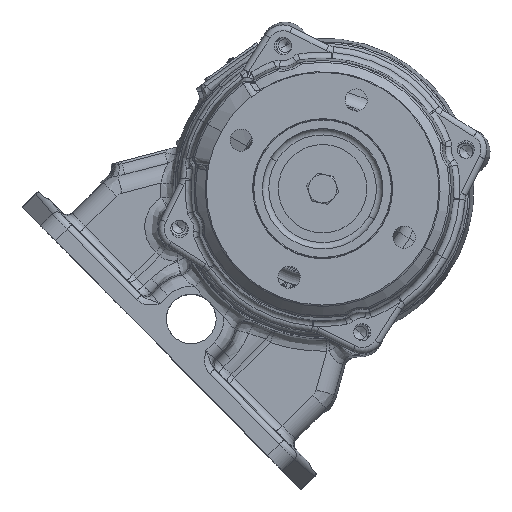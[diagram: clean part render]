
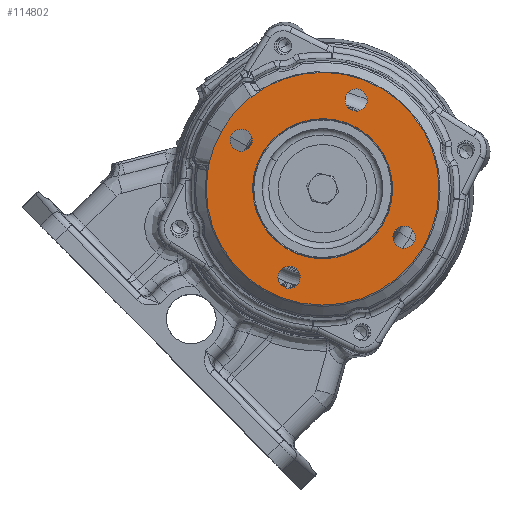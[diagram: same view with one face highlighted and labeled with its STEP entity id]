
A CAD part, top view. The second image highlights one B-rep face of the part: STEP entity #114802.
In plain terms, the highlighted planar face has unit normal (0, 0, 1) as drawn and (0, -1, 0) by its records, which use the part's own axes.
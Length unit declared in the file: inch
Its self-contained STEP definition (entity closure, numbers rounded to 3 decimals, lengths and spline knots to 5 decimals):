
#970 = EDGE_LOOP ( 'NONE', ( #81920, #97185 ) ) ;
#1090 = CARTESIAN_POINT ( 'NONE',  ( 1.84651, 0., 0.32559 ) ) ;
#1412 = ORIENTED_EDGE ( 'NONE', *, *, #39196, .T. ) ;
#4248 = FACE_BOUND ( 'NONE', #70435, .T. ) ;
#4326 = VERTEX_POINT ( 'NONE', #41296 ) ;
#6287 = ORIENTED_EDGE ( 'NONE', *, *, #117518, .T. ) ;
#7482 = VERTEX_POINT ( 'NONE', #81000 ) ;
#11139 = AXIS2_PLACEMENT_3D ( 'NONE', #33689, #32488, #90199 ) ;
#11695 = EDGE_LOOP ( 'NONE', ( #1412, #116113 ) ) ;
#13982 = DIRECTION ( 'NONE',  ( 0., -1., 0. ) ) ;
#14313 = CIRCLE ( 'NONE', #103548, 0.22 ) ;
#15189 = FACE_BOUND ( 'NONE', #970, .T. ) ;
#17357 = CARTESIAN_POINT ( 'NONE',  ( 0., 0., -1.655 ) ) ;
#17573 = DIRECTION ( 'NONE',  ( 0., 0., 1. ) ) ;
#17930 = EDGE_LOOP ( 'NONE', ( #44624, #6287 ) ) ;
#18703 = CIRCLE ( 'NONE', #94299, 0.22 ) ;
#18760 = AXIS2_PLACEMENT_3D ( 'NONE', #28790, #102887, #85861 ) ;
#19371 = DIRECTION ( 'NONE',  ( 0., 0., -1. ) ) ;
#21772 = CARTESIAN_POINT ( 'NONE',  ( 0., 0., 0. ) ) ;
#25554 = CIRCLE ( 'NONE', #62429, 0.22 ) ;
#28762 = VERTEX_POINT ( 'NONE', #61476 ) ;
#28790 = CARTESIAN_POINT ( 'NONE',  ( 0., 0., -1.875 ) ) ;
#29743 = CARTESIAN_POINT ( 'NONE',  ( 0., 0., 1.875 ) ) ;
#30164 = VERTEX_POINT ( 'NONE', #45231 ) ;
#30439 = CIRCLE ( 'NONE', #98339, 1.3855 ) ;
#31564 = DIRECTION ( 'NONE',  ( 0., 1., 0. ) ) ;
#32488 = DIRECTION ( 'NONE',  ( 0., 1., 0. ) ) ;
#33087 = CARTESIAN_POINT ( 'NONE',  ( -1.84651, 0., -0.10559 ) ) ;
#33326 = DIRECTION ( 'NONE',  ( 0., 1., 0. ) ) ;
#33689 = CARTESIAN_POINT ( 'NONE',  ( 0., 0., 0. ) ) ;
#33771 = EDGE_CURVE ( 'NONE', #87618, #49492, #105992, .T. ) ;
#34019 = PLANE ( 'NONE',  #118837 ) ;
#34163 = AXIS2_PLACEMENT_3D ( 'NONE', #1090, #55798, #76383 ) ;
#36197 = DIRECTION ( 'NONE',  ( 0., 0., 1. ) ) ;
#37609 = EDGE_CURVE ( 'NONE', #109572, #59962, #69368, .T. ) ;
#38985 = AXIS2_PLACEMENT_3D ( 'NONE', #21772, #78218, #115260 ) ;
#39196 = EDGE_CURVE ( 'NONE', #118911, #74740, #118910, .T. ) ;
#41296 = CARTESIAN_POINT ( 'NONE',  ( 0., 0., 1.655 ) ) ;
#41318 = FACE_BOUND ( 'NONE', #17930, .T. ) ;
#41481 = DIRECTION ( 'NONE',  ( 0., 0., -1. ) ) ;
#42432 = ORIENTED_EDGE ( 'NONE', *, *, #100621, .F. ) ;
#42523 = FACE_BOUND ( 'NONE', #11695, .T. ) ;
#43518 = CARTESIAN_POINT ( 'NONE',  ( 0., 0., -1.875 ) ) ;
#44624 = ORIENTED_EDGE ( 'NONE', *, *, #108282, .T. ) ;
#44792 = DIRECTION ( 'NONE',  ( 0., 0., 1. ) ) ;
#45231 = CARTESIAN_POINT ( 'NONE',  ( 1.84651, 0., 0.54559 ) ) ;
#45758 = EDGE_CURVE ( 'NONE', #74740, #118911, #30439, .T. ) ;
#49276 = CARTESIAN_POINT ( 'NONE',  ( 0., 0., 2.3025 ) ) ;
#49492 = VERTEX_POINT ( 'NONE', #17357 ) ;
#52192 = ORIENTED_EDGE ( 'NONE', *, *, #37609, .F. ) ;
#52940 = CARTESIAN_POINT ( 'NONE',  ( 0., 0., -2.095 ) ) ;
#55236 = AXIS2_PLACEMENT_3D ( 'NONE', #29743, #103838, #87599 ) ;
#55328 = VERTEX_POINT ( 'NONE', #33087 ) ;
#55798 = DIRECTION ( 'NONE',  ( 0., 1., 0. ) ) ;
#56313 = CARTESIAN_POINT ( 'NONE',  ( 1.84651, 0., 0.10559 ) ) ;
#57588 = ORIENTED_EDGE ( 'NONE', *, *, #112676, .T. ) ;
#57597 = CARTESIAN_POINT ( 'NONE',  ( 0., 0., 0. ) ) ;
#58434 = CARTESIAN_POINT ( 'NONE',  ( -1.84651, 0., -0.32559 ) ) ;
#58598 = EDGE_LOOP ( 'NONE', ( #88792, #58896 ) ) ;
#58831 = AXIS2_PLACEMENT_3D ( 'NONE', #97381, #87079, #41481 ) ;
#58896 = ORIENTED_EDGE ( 'NONE', *, *, #89908, .T. ) ;
#59479 = EDGE_CURVE ( 'NONE', #55328, #28762, #14313, .T. ) ;
#59962 = VERTEX_POINT ( 'NONE', #74399 ) ;
#60119 = AXIS2_PLACEMENT_3D ( 'NONE', #43518, #71493, #36197 ) ;
#61300 = DIRECTION ( 'NONE',  ( 0., 0., 1. ) ) ;
#61476 = CARTESIAN_POINT ( 'NONE',  ( -1.84651, 0., -0.54559 ) ) ;
#62429 = AXIS2_PLACEMENT_3D ( 'NONE', #62527, #63136, #17573 ) ;
#62527 = CARTESIAN_POINT ( 'NONE',  ( 1.84651, 0., 0.32559 ) ) ;
#62927 = CARTESIAN_POINT ( 'NONE',  ( 0., 0., 1.3855 ) ) ;
#63136 = DIRECTION ( 'NONE',  ( 0., 1., 0. ) ) ;
#63154 = CARTESIAN_POINT ( 'NONE',  ( 0., 0., -1.3855 ) ) ;
#65462 = DIRECTION ( 'NONE',  ( 0., 1., 0. ) ) ;
#67159 = CIRCLE ( 'NONE', #34163, 0.22 ) ;
#68667 = DIRECTION ( 'NONE',  ( 0., 0., 1. ) ) ;
#69368 = CIRCLE ( 'NONE', #11139, 2.3025 ) ;
#69891 = FACE_OUTER_BOUND ( 'NONE', #113568, .T. ) ;
#70435 = EDGE_LOOP ( 'NONE', ( #85212, #57588 ) ) ;
#71266 = VERTEX_POINT ( 'NONE', #56313 ) ;
#71493 = DIRECTION ( 'NONE',  ( 0., 1., 0. ) ) ;
#71963 = CIRCLE ( 'NONE', #38985, 2.3025 ) ;
#72160 = CARTESIAN_POINT ( 'NONE',  ( -1.84651, 0., -0.32559 ) ) ;
#74399 = CARTESIAN_POINT ( 'NONE',  ( 0., 0., -2.3025 ) ) ;
#74740 = VERTEX_POINT ( 'NONE', #62927 ) ;
#76383 = DIRECTION ( 'NONE',  ( 0., 0., 1. ) ) ;
#78218 = DIRECTION ( 'NONE',  ( 0., 1., 0. ) ) ;
#78932 = EDGE_CURVE ( 'NONE', #49492, #87618, #98860, .T. ) ;
#78986 = DIRECTION ( 'NONE',  ( 0., 0., -1. ) ) ;
#81000 = CARTESIAN_POINT ( 'NONE',  ( 0., 0., 2.095 ) ) ;
#81592 = CIRCLE ( 'NONE', #101025, 0.22 ) ;
#81920 = ORIENTED_EDGE ( 'NONE', *, *, #78932, .T. ) ;
#85212 = ORIENTED_EDGE ( 'NONE', *, *, #90063, .T. ) ;
#85861 = DIRECTION ( 'NONE',  ( 0., 0., 1. ) ) ;
#86921 = CARTESIAN_POINT ( 'NONE',  ( 2.3025, 0., 0. ) ) ;
#87079 = DIRECTION ( 'NONE',  ( 0., 1., 0. ) ) ;
#87599 = DIRECTION ( 'NONE',  ( 0., 0., 1. ) ) ;
#87618 = VERTEX_POINT ( 'NONE', #52940 ) ;
#88792 = ORIENTED_EDGE ( 'NONE', *, *, #59479, .T. ) ;
#89908 = EDGE_CURVE ( 'NONE', #28762, #55328, #18703, .T. ) ;
#90063 = EDGE_CURVE ( 'NONE', #30164, #71266, #67159, .T. ) ;
#90199 = DIRECTION ( 'NONE',  ( 0., 0., 1. ) ) ;
#94077 = DIRECTION ( 'NONE',  ( 0., 1., 0. ) ) ;
#94299 = AXIS2_PLACEMENT_3D ( 'NONE', #58434, #33326, #61300 ) ;
#97172 = CARTESIAN_POINT ( 'NONE',  ( 0., 0., 1.875 ) ) ;
#97185 = ORIENTED_EDGE ( 'NONE', *, *, #33771, .T. ) ;
#97381 = CARTESIAN_POINT ( 'NONE',  ( 0., 0., 0. ) ) ;
#98339 = AXIS2_PLACEMENT_3D ( 'NONE', #57597, #94077, #19371 ) ;
#98416 = FACE_BOUND ( 'NONE', #58598, .T. ) ;
#98860 = CIRCLE ( 'NONE', #60119, 0.22 ) ;
#100621 = EDGE_CURVE ( 'NONE', #59962, #109572, #71963, .T. ) ;
#101025 = AXIS2_PLACEMENT_3D ( 'NONE', #97172, #31564, #68667 ) ;
#102887 = DIRECTION ( 'NONE',  ( 0., 1., 0. ) ) ;
#103548 = AXIS2_PLACEMENT_3D ( 'NONE', #72160, #65462, #44792 ) ;
#103838 = DIRECTION ( 'NONE',  ( 0., 1., 0. ) ) ;
#105992 = CIRCLE ( 'NONE', #18760, 0.22 ) ;
#107573 = CIRCLE ( 'NONE', #55236, 0.22 ) ;
#108282 = EDGE_CURVE ( 'NONE', #7482, #4326, #81592, .T. ) ;
#109572 = VERTEX_POINT ( 'NONE', #49276 ) ;
#112676 = EDGE_CURVE ( 'NONE', #71266, #30164, #25554, .T. ) ;
#113568 = EDGE_LOOP ( 'NONE', ( #52192, #42432 ) ) ;
#114802 = ADVANCED_FACE ( 'NONE', ( #42523, #4248, #98416, #41318, #15189, #69891 ), #34019, .T. ) ;
#115260 = DIRECTION ( 'NONE',  ( 0., 0., 1. ) ) ;
#116113 = ORIENTED_EDGE ( 'NONE', *, *, #45758, .T. ) ;
#117518 = EDGE_CURVE ( 'NONE', #4326, #7482, #107573, .T. ) ;
#118837 = AXIS2_PLACEMENT_3D ( 'NONE', #86921, #13982, #78986 ) ;
#118910 = CIRCLE ( 'NONE', #58831, 1.3855 ) ;
#118911 = VERTEX_POINT ( 'NONE', #63154 ) ;
